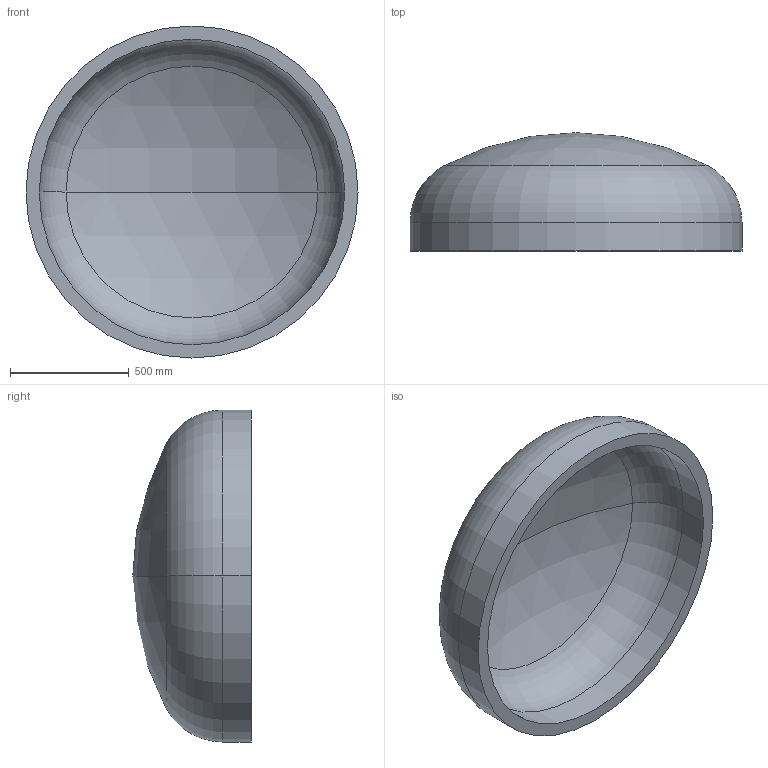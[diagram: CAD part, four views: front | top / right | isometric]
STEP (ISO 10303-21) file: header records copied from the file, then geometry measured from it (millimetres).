
FILE_DESCRIPTION (( 'STEP AP203' ), '1' );
FILE_NAME ('DIN 28013 Korbbogenform_-_Boden DIN 28013 - 1400 x 120 - I - s=56.step', '2016-07-01T10:21:41', ( '' ), ( '' ), 'SwSTEP 2.0', 'SolidWorks 2013', '' );
FILE_SCHEMA (( 'CONFIG_CONTROL_DESIGN' ));
Length unit declared in the file: millimetre
Products named in the file (1): DIN 28013 Korbbogenform_-_Boden DIN 28013 - 1400 x 120 - I - s=56
Bounding box: 1400 x 499.14 x 1400 mm (x, y, z)
Volume: 141672734.6 mm3; surface area: 5302756 mm2
Topology: 1 solids, 1 shells, 13 faces, 24 edges, 14 vertices
Faces by surface type: torus 4, cylinder 4, sphere 4, plane 1
Entity records: 407 total; most frequent: DIRECTION 72, CARTESIAN_POINT 52, ORIENTED_EDGE 48, AXIS2_PLACEMENT_3D 34, EDGE_CURVE 24, CIRCLE 20, EDGE_LOOP 14, VERTEX_POINT 14
